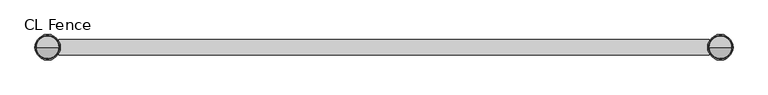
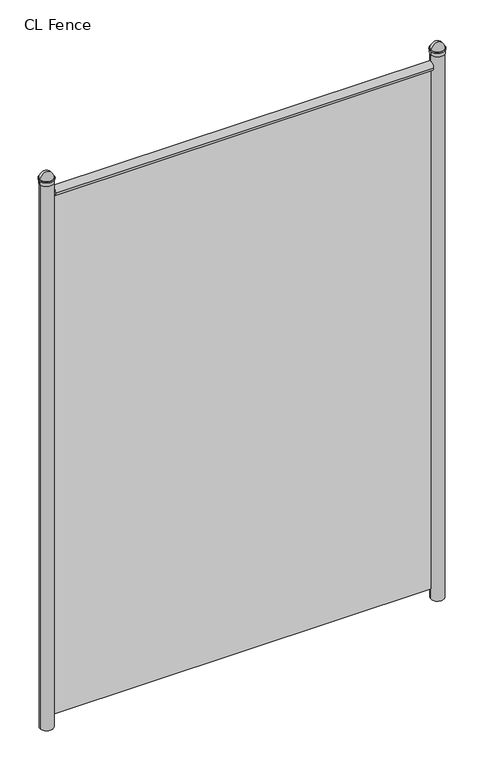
"""IFC4 building model written with IfcOpenShell, lengths in millimetres: geographic element geometry, Alambrado : CL Fence."""

from ifc_helpers import new_model, si_unit, point, frame, frame_2d, origin, place, context, project, spatial, polyline, circle_curve, ellipse_curve, trimmed, segment, composite_curve, outline, extrude, source, transform, mapped, element, save
from ifc_brep_helpers import plane_surface, cylinder_surface, revolved_surface, advanced_brep


def cl_fence_b50189db(model_context):
    return source(origin(), model_context, "Body", "SolidModel", [
        advanced_brep(
        [(1779.5068016, 0.0, 2684.3625), (1840.4931984, 0.0, 2684.3625), (1841.75, 0.0, 2684.3625), (1778.25, 0.0, 2684.3625), (1810.0, 0.0, 2714.8556984), (1778.25, 0.0, 2662.1375), (1841.75, 0.0, 2662.1375), (1810.0, 0.0, 2662.1375), (1778.25, 0.0, 2679.6), (1841.75, 0.0, 2679.6)],
        [
            (0, 1, circle_curve(frame((1810.0, 0.0, 2684.3625), z_axis=(0.0, 0.0, -1.0), x_axis=(1.0, 0.0, 0.0)), 30.4931984)),
            (1, 2),
            (2, 3, circle_curve(frame((1810.0, 0.0, 2684.3625), z_axis=(0.0, 0.0, 1.0), x_axis=(1.0, 0.0, 0.0)), 31.75)),
            (3, 0),
            (1, 0, circle_curve(frame((1810.0, 0.0, 2684.3625), z_axis=(0.0, 0.0, -1.0), x_axis=(1.0, 0.0, 0.0)), 30.4931984)),
            (3, 2, circle_curve(frame((1810.0, 0.0, 2684.3625), z_axis=(0.0, 0.0, 1.0), x_axis=(1.0, 0.0, 0.0)), 31.75)),
            (4, 1, circle_curve(frame((1803.1443328, 0.0, 2677.5068328), z_axis=(0.0, 1.0, 0.0), x_axis=(1.0, 0.0, 0.0)), 37.9728578)),
            (0, 4, circle_curve(frame((1816.8556672, 0.0, 2677.5068328), z_axis=(0.0, 1.0, 0.0), x_axis=(-1.0, 0.0, 0.0)), 37.9728578)),
            (5, 6, circle_curve(frame((1810.0, 0.0, 2662.1375), z_axis=(0.0, 0.0, -1.0), x_axis=(1.0, 0.0, 0.0)), 31.75)),
            (6, 7),
            (7, 5),
            (6, 5, circle_curve(frame((1810.0, 0.0, 2662.1375), z_axis=(0.0, 0.0, -1.0), x_axis=(1.0, 0.0, 0.0)), 31.75)),
            (8, 9, circle_curve(frame((1810.0, 0.0, 2679.6), z_axis=(0.0, 0.0, -1.0), x_axis=(1.0, 0.0, 0.0)), 31.75)),
            (9, 6),
            (5, 8),
            (9, 8, circle_curve(frame((1810.0, 0.0, 2679.6), z_axis=(0.0, 0.0, -1.0), x_axis=(1.0, 0.0, 0.0)), 31.75)),
            (2, 9, circle_curve(frame((1841.75, 0.0, 2681.98125), z_axis=(0.0, 1.0, 0.0), x_axis=(1.0, 0.0, 0.0)), 2.38125)),
            (8, 3, circle_curve(frame((1778.25, 0.0, 2681.98125), z_axis=(0.0, 1.0, 0.0), x_axis=(-1.0, 0.0, 0.0)), 2.38125)),
        ],
        [
            plane_surface(frame((1810.0, 0.0, 2684.3625), z_axis=(0.0, 0.0, 1.0), x_axis=(1.0, 0.0, 0.0))),
            revolved_surface(trimmed(ellipse_curve(frame((1803.1443328, 0.0, 2677.5068328), z_axis=(0.0, -1.0, 0.0), x_axis=(1.0, 0.0, 0.0)), 37.9728578, 37.9728578), [point((1840.4931984, 0.0, 2684.3625))], [point((1810.0, 0.0, 2714.8556984))], True, "CARTESIAN"), (1810.0, 0.0, 2741.5125), (0.0, 0.0, 1.0)),
            plane_surface(frame((1810.0, 0.0, 2662.1375), z_axis=(0.0, 0.0, -1.0), x_axis=(1.0, 0.0, 0.0))),
            cylinder_surface(frame((1810.0, 0.0, 2741.5125), z_axis=(0.0, 0.0, 1.0), x_axis=(1.0, 0.0, 0.0)), 31.75),
            revolved_surface(trimmed(ellipse_curve(frame((1841.75, 0.0, 2681.98125), z_axis=(0.0, -1.0, 0.0), x_axis=(1.0, 0.0, 0.0)), 2.38125, 2.38125), [point((1841.75, 0.0, 2679.6))], [point((1841.75, 0.0, 2684.3625))], True, "CARTESIAN"), (1810.0, 0.0, 2741.5125), (0.0, 0.0, 1.0)),
        ],
        [
            (0, [[1, 2, 3, 4]]),
            (0, [[5, -4, 6, -2]]),
            (1, [[7, -1, 8]]),
            (1, [[-8, -5, -7]]),
            (2, [[9, 10, 11]]),
            (2, [[12, -11, -10]]),
            (3, [[13, 14, -9, 15]]),
            (3, [[16, -15, -12, -14]]),
            (4, [[-3, 17, -13, 18]]),
            (4, [[-6, -18, -16, -17]]),
        ],
    ),
        advanced_brep(
        [(1810.0, 0.0, 2679.6), (1840.1625, 0.0, 2679.6), (1779.8375, 0.0, 2679.6), (1779.8375, 0.0, 0.0), (1840.1625, 0.0, 0.0), (1810.0, 0.0, 0.0)],
        [
            (0, 1),
            (1, 2, circle_curve(frame((1810.0, 0.0, 2679.6), z_axis=(0.0, 0.0, 1.0), x_axis=(1.0, 0.0, 0.0)), 30.1625)),
            (2, 0),
            (2, 1, circle_curve(frame((1810.0, 0.0, 2679.6), z_axis=(0.0, 0.0, 1.0), x_axis=(1.0, 0.0, 0.0)), 30.1625)),
            (3, 4, circle_curve(frame((1810.0, 0.0, 0.0), z_axis=(0.0, 0.0, -1.0), x_axis=(1.0, 0.0, 0.0)), 30.1625)),
            (4, 5),
            (5, 3),
            (4, 3, circle_curve(frame((1810.0, 0.0, 0.0), z_axis=(0.0, 0.0, -1.0), x_axis=(1.0, 0.0, 0.0)), 30.1625)),
            (1, 4),
            (3, 2),
        ],
        [
            plane_surface(frame((1810.0, 0.0, 2679.6), z_axis=(0.0, 0.0, 1.0), x_axis=(1.0, 0.0, 0.0))),
            plane_surface(frame((1810.0, 0.0, 0.0), z_axis=(0.0, 0.0, -1.0), x_axis=(1.0, 0.0, 0.0))),
            cylinder_surface(frame((1810.0, 0.0, 2730.4), z_axis=(0.0, 0.0, 1.0), x_axis=(1.0, 0.0, 0.0)), 30.1625),
        ],
        [
            (0, [[1, 2, 3]]),
            (0, [[-3, 4, -1]]),
            (1, [[5, 6, 7]]),
            (1, [[8, -7, -6]]),
            (2, [[-2, 9, -5, 10]]),
            (2, [[-4, -10, -8, -9]]),
        ],
    ),
        advanced_brep(
        [(-30.4931984, 0.0, 2684.3625), (30.4931984, 0.0, 2684.3625), (31.75, 0.0, 2684.3625), (-31.75, 0.0, 2684.3625), (0.0, 0.0, 2714.8556984), (-31.75, 0.0, 2662.1375), (31.75, 0.0, 2662.1375), (0.0, 0.0, 2662.1375), (-31.75, 0.0, 2679.6), (31.75, 0.0, 2679.6)],
        [
            (0, 1, circle_curve(frame((0.0, 0.0, 2684.3625), z_axis=(0.0, 0.0, -1.0), x_axis=(1.0, 0.0, 0.0)), 30.4931984)),
            (1, 2),
            (2, 3, circle_curve(frame((0.0, 0.0, 2684.3625), z_axis=(0.0, 0.0, 1.0), x_axis=(1.0, 0.0, 0.0)), 31.75)),
            (3, 0),
            (1, 0, circle_curve(frame((0.0, 0.0, 2684.3625), z_axis=(0.0, 0.0, -1.0), x_axis=(1.0, 0.0, 0.0)), 30.4931984)),
            (3, 2, circle_curve(frame((0.0, 0.0, 2684.3625), z_axis=(0.0, 0.0, 1.0), x_axis=(1.0, 0.0, 0.0)), 31.75)),
            (4, 1, circle_curve(frame((-6.8556672, 0.0, 2677.5068328), z_axis=(0.0, 1.0, 0.0), x_axis=(1.0, 0.0, 0.0)), 37.9728578)),
            (0, 4, circle_curve(frame((6.8556672, 0.0, 2677.5068328), z_axis=(0.0, 1.0, 0.0), x_axis=(-1.0, 0.0, 0.0)), 37.9728578)),
            (5, 6, circle_curve(frame((0.0, 0.0, 2662.1375), z_axis=(0.0, 0.0, -1.0), x_axis=(1.0, 0.0, 0.0)), 31.75)),
            (6, 7),
            (7, 5),
            (6, 5, circle_curve(frame((0.0, 0.0, 2662.1375), z_axis=(0.0, 0.0, -1.0), x_axis=(1.0, 0.0, 0.0)), 31.75)),
            (8, 9, circle_curve(frame((0.0, 0.0, 2679.6), z_axis=(0.0, 0.0, -1.0), x_axis=(1.0, 0.0, 0.0)), 31.75)),
            (9, 6),
            (5, 8),
            (9, 8, circle_curve(frame((0.0, 0.0, 2679.6), z_axis=(0.0, 0.0, -1.0), x_axis=(1.0, 0.0, 0.0)), 31.75)),
            (2, 9, circle_curve(frame((31.75, 0.0, 2681.98125), z_axis=(0.0, 1.0, 0.0), x_axis=(1.0, 0.0, 0.0)), 2.38125)),
            (8, 3, circle_curve(frame((-31.75, 0.0, 2681.98125), z_axis=(0.0, 1.0, 0.0), x_axis=(-1.0, 0.0, 0.0)), 2.38125)),
        ],
        [
            plane_surface(frame((0.0, 0.0, 2684.3625), z_axis=(0.0, 0.0, 1.0), x_axis=(1.0, 0.0, 0.0))),
            revolved_surface(trimmed(ellipse_curve(frame((-6.8556672, 0.0, 2677.5068328), z_axis=(0.0, -1.0, 0.0), x_axis=(1.0, 0.0, 0.0)), 37.9728578, 37.9728578), [point((30.4931984, 0.0, 2684.3625))], [point((0.0, 0.0, 2714.8556984))], True, "CARTESIAN"), (0.0, 0.0, 2741.5125), (0.0, 0.0, 1.0)),
            plane_surface(frame((0.0, 0.0, 2662.1375), z_axis=(0.0, 0.0, -1.0), x_axis=(1.0, 0.0, 0.0))),
            cylinder_surface(frame((0.0, 0.0, 2741.5125), z_axis=(0.0, 0.0, 1.0), x_axis=(1.0, 0.0, 0.0)), 31.75),
            revolved_surface(trimmed(ellipse_curve(frame((31.75, 0.0, 2681.98125), z_axis=(0.0, -1.0, 0.0), x_axis=(1.0, 0.0, 0.0)), 2.38125, 2.38125), [point((31.75, 0.0, 2679.6))], [point((31.75, 0.0, 2684.3625))], True, "CARTESIAN"), (0.0, 0.0, 2741.5125), (0.0, 0.0, 1.0)),
        ],
        [
            (0, [[1, 2, 3, 4]]),
            (0, [[5, -4, 6, -2]]),
            (1, [[7, -1, 8]]),
            (1, [[-8, -5, -7]]),
            (2, [[9, 10, 11]]),
            (2, [[12, -11, -10]]),
            (3, [[13, 14, -9, 15]]),
            (3, [[16, -15, -12, -14]]),
            (4, [[-3, 17, -13, 18]]),
            (4, [[-6, -18, -16, -17]]),
        ],
    ),
        advanced_brep(
        [(0.0, 0.0, 2679.6), (30.1625, 0.0, 2679.6), (-30.1625, 0.0, 2679.6), (-30.1625, 0.0, 0.0), (30.1625, 0.0, 0.0), (0.0, 0.0, 0.0)],
        [
            (0, 1),
            (1, 2, circle_curve(frame((0.0, 0.0, 2679.6), z_axis=(0.0, 0.0, 1.0), x_axis=(1.0, 0.0, 0.0)), 30.1625)),
            (2, 0),
            (2, 1, circle_curve(frame((0.0, 0.0, 2679.6), z_axis=(0.0, 0.0, 1.0), x_axis=(1.0, 0.0, 0.0)), 30.1625)),
            (3, 4, circle_curve(frame((0.0, 0.0, 0.0), z_axis=(0.0, 0.0, -1.0), x_axis=(1.0, 0.0, 0.0)), 30.1625)),
            (4, 5),
            (5, 3),
            (4, 3, circle_curve(frame((0.0, 0.0, 0.0), z_axis=(0.0, 0.0, -1.0), x_axis=(1.0, 0.0, 0.0)), 30.1625)),
            (1, 4),
            (3, 2),
        ],
        [
            plane_surface(frame((0.0, 0.0, 2679.6), z_axis=(0.0, 0.0, 1.0), x_axis=(1.0, 0.0, 0.0))),
            plane_surface(frame((0.0, 0.0, 0.0), z_axis=(0.0, 0.0, -1.0), x_axis=(1.0, 0.0, 0.0))),
            cylinder_surface(frame((0.0, 0.0, 2730.4), z_axis=(0.0, 0.0, 1.0), x_axis=(1.0, 0.0, 0.0)), 30.1625),
        ],
        [
            (0, [[1, 2, 3]]),
            (0, [[-3, 4, -1]]),
            (1, [[5, 6, 7]]),
            (1, [[8, -7, -6]]),
            (2, [[-2, 9, -5, 10]]),
            (2, [[-4, -10, -8, -9]]),
        ],
    ),
        extrude(outline(composite_curve([segment(trimmed(circle_curve(frame_2d((0.0, 2608.1625)), 20.6375), [point((-20.6375, 2608.1625))], [point((20.6375, 2608.1625))], False, "CARTESIAN"), True, "CONTINUOUS"), segment(trimmed(circle_curve(frame_2d((0.0, 2608.1625)), 20.6375), [point((20.6375, 2608.1625))], [point((-20.6375, 2608.1625))], False, "CARTESIAN"), True, "CONTINUOUS")], self_intersect=False)), frame((30.1625, 0.0, 0.0), z_axis=(1.0, 0.0, 0.0), x_axis=(0.0, 1.0, 0.0)), (0.0, 0.0, 1.0), 1749.675),
        extrude(outline(polyline([(1779.8375, 1.5875), (1779.8375, -1.5875), (30.1625, -1.5875), (30.1625, 1.5875), (1779.8375, 1.5875)])), frame((0.0, 0.0, 50.8), z_axis=(0.0, 0.0, 1.0), x_axis=(1.0, 0.0, 0.0)), (0.0, 0.0, 1.0), 2557.3625),
    ])


if __name__ == "__main__":
    model = new_model("IFC4")
    model_context = context("Model", 3, world=origin())
    ifc_project = project(units=[si_unit("LENGTHUNIT", "METRE", prefix="MILLI")], contexts=[model_context])
    site = spatial("IfcSite", under=ifc_project)
    building = spatial("IfcBuilding", under=site)
    placement = place(None, origin())
    cl_fence_shape = cl_fence_b50189db(model_context)
    element("IfcGeographicElement", 1, ObjectType="Alambrado : CL Fence", at=placement, inside=building, context=model_context, shape_type="MappedRepresentation", body=[
        mapped(cl_fence_shape, transform((0.0, 0.0, 0.0), x_axis=(1.0, 0.0, 0.0), y_axis=(0.0, 1.0, 0.0), z_axis=(0.0, 0.0, 1.0))),
    ])
    save(model, "model.ifc")
